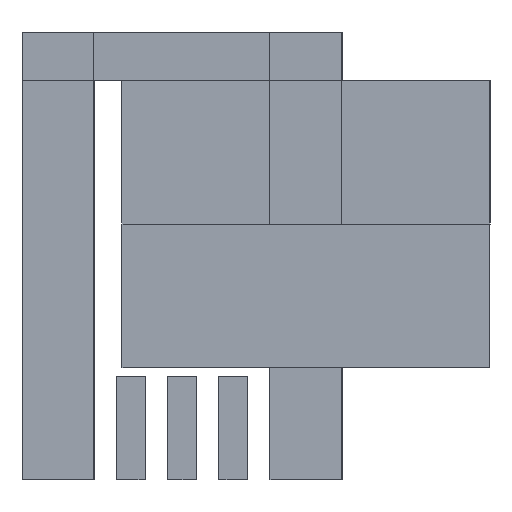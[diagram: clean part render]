
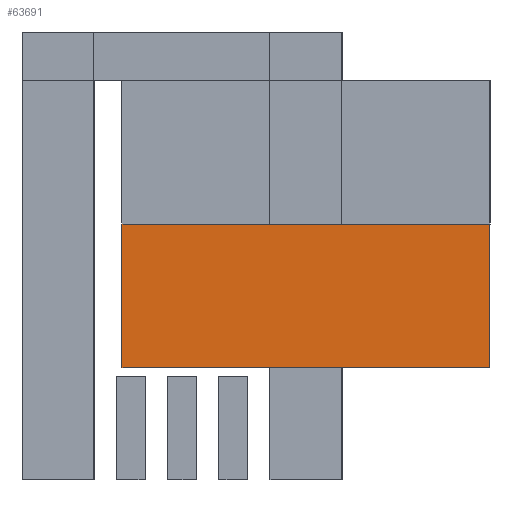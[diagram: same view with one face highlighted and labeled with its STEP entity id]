
A CAD part, left-side view. The second image highlights one B-rep face of the part: STEP entity #63691.
In plain terms, the highlighted planar face has unit normal (-1, 0, 0).
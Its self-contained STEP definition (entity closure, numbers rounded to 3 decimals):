
#63691 = ADVANCED_FACE('',(#63692),#63706,.F.);
#63692 = FACE_BOUND('',#63693,.F.);
#63693 = EDGE_LOOP('',(#63694,#63729,#63757,#63785));
#63694 = ORIENTED_EDGE('',*,*,#63695,.F.);
#63695 = EDGE_CURVE('',#63696,#63698,#63700,.T.);
#63696 = VERTEX_POINT('',#63697);
#63697 = CARTESIAN_POINT('',(-12.,-19.25,57.));
#63698 = VERTEX_POINT('',#63699);
#63699 = CARTESIAN_POINT('',(-12.,-19.25,66.));
#63700 = SURFACE_CURVE('',#63701,(#63705,#63717),.PCURVE_S1.);
#63701 = LINE('',#63702,#63703);
#63702 = CARTESIAN_POINT('',(-12.,-19.25,57.));
#63703 = VECTOR('',#63704,1.);
#63704 = DIRECTION('',(0.,0.,1.));
#63705 = PCURVE('',#63706,#63711);
#63706 = PLANE('',#63707);
#63707 = AXIS2_PLACEMENT_3D('',#63708,#63709,#63710);
#63708 = CARTESIAN_POINT('',(-12.,-19.25,57.));
#63709 = DIRECTION('',(1.,0.,0.));
#63710 = DIRECTION('',(0.,0.,1.));
#63711 = DEFINITIONAL_REPRESENTATION('',(#63712),#63716);
#63712 = LINE('',#63713,#63714);
#63713 = CARTESIAN_POINT('',(0.,0.));
#63714 = VECTOR('',#63715,1.);
#63715 = DIRECTION('',(1.,0.));
#63716 = ( GEOMETRIC_REPRESENTATION_CONTEXT(2) 
PARAMETRIC_REPRESENTATION_CONTEXT() REPRESENTATION_CONTEXT('2D SPACE',''
  ) );
#63717 = PCURVE('',#63718,#63723);
#63718 = PLANE('',#63719);
#63719 = AXIS2_PLACEMENT_3D('',#63720,#63721,#63722);
#63720 = CARTESIAN_POINT('',(-12.,-19.25,57.));
#63721 = DIRECTION('',(0.,1.,0.));
#63722 = DIRECTION('',(0.,0.,1.));
#63723 = DEFINITIONAL_REPRESENTATION('',(#63724),#63728);
#63724 = LINE('',#63725,#63726);
#63725 = CARTESIAN_POINT('',(0.,0.));
#63726 = VECTOR('',#63727,1.);
#63727 = DIRECTION('',(1.,0.));
#63728 = ( GEOMETRIC_REPRESENTATION_CONTEXT(2) 
PARAMETRIC_REPRESENTATION_CONTEXT() REPRESENTATION_CONTEXT('2D SPACE',''
  ) );
#63729 = ORIENTED_EDGE('',*,*,#63730,.T.);
#63730 = EDGE_CURVE('',#63696,#63731,#63733,.T.);
#63731 = VERTEX_POINT('',#63732);
#63732 = CARTESIAN_POINT('',(-12.,3.75,57.));
#63733 = SURFACE_CURVE('',#63734,(#63738,#63745),.PCURVE_S1.);
#63734 = LINE('',#63735,#63736);
#63735 = CARTESIAN_POINT('',(-12.,-19.25,57.));
#63736 = VECTOR('',#63737,1.);
#63737 = DIRECTION('',(0.,1.,0.));
#63738 = PCURVE('',#63706,#63739);
#63739 = DEFINITIONAL_REPRESENTATION('',(#63740),#63744);
#63740 = LINE('',#63741,#63742);
#63741 = CARTESIAN_POINT('',(0.,0.));
#63742 = VECTOR('',#63743,1.);
#63743 = DIRECTION('',(0.,-1.));
#63744 = ( GEOMETRIC_REPRESENTATION_CONTEXT(2) 
PARAMETRIC_REPRESENTATION_CONTEXT() REPRESENTATION_CONTEXT('2D SPACE',''
  ) );
#63745 = PCURVE('',#63746,#63751);
#63746 = PLANE('',#63747);
#63747 = AXIS2_PLACEMENT_3D('',#63748,#63749,#63750);
#63748 = CARTESIAN_POINT('',(-12.,-19.25,57.));
#63749 = DIRECTION('',(0.,0.,1.));
#63750 = DIRECTION('',(1.,0.,0.));
#63751 = DEFINITIONAL_REPRESENTATION('',(#63752),#63756);
#63752 = LINE('',#63753,#63754);
#63753 = CARTESIAN_POINT('',(0.,0.));
#63754 = VECTOR('',#63755,1.);
#63755 = DIRECTION('',(0.,1.));
#63756 = ( GEOMETRIC_REPRESENTATION_CONTEXT(2) 
PARAMETRIC_REPRESENTATION_CONTEXT() REPRESENTATION_CONTEXT('2D SPACE',''
  ) );
#63757 = ORIENTED_EDGE('',*,*,#63758,.T.);
#63758 = EDGE_CURVE('',#63731,#63759,#63761,.T.);
#63759 = VERTEX_POINT('',#63760);
#63760 = CARTESIAN_POINT('',(-12.,3.75,66.));
#63761 = SURFACE_CURVE('',#63762,(#63766,#63773),.PCURVE_S1.);
#63762 = LINE('',#63763,#63764);
#63763 = CARTESIAN_POINT('',(-12.,3.75,57.));
#63764 = VECTOR('',#63765,1.);
#63765 = DIRECTION('',(0.,0.,1.));
#63766 = PCURVE('',#63706,#63767);
#63767 = DEFINITIONAL_REPRESENTATION('',(#63768),#63772);
#63768 = LINE('',#63769,#63770);
#63769 = CARTESIAN_POINT('',(0.,-23.));
#63770 = VECTOR('',#63771,1.);
#63771 = DIRECTION('',(1.,0.));
#63772 = ( GEOMETRIC_REPRESENTATION_CONTEXT(2) 
PARAMETRIC_REPRESENTATION_CONTEXT() REPRESENTATION_CONTEXT('2D SPACE',''
  ) );
#63773 = PCURVE('',#63774,#63779);
#63774 = PLANE('',#63775);
#63775 = AXIS2_PLACEMENT_3D('',#63776,#63777,#63778);
#63776 = CARTESIAN_POINT('',(-12.,3.75,57.));
#63777 = DIRECTION('',(0.,1.,0.));
#63778 = DIRECTION('',(0.,0.,1.));
#63779 = DEFINITIONAL_REPRESENTATION('',(#63780),#63784);
#63780 = LINE('',#63781,#63782);
#63781 = CARTESIAN_POINT('',(0.,0.));
#63782 = VECTOR('',#63783,1.);
#63783 = DIRECTION('',(1.,0.));
#63784 = ( GEOMETRIC_REPRESENTATION_CONTEXT(2) 
PARAMETRIC_REPRESENTATION_CONTEXT() REPRESENTATION_CONTEXT('2D SPACE',''
  ) );
#63785 = ORIENTED_EDGE('',*,*,#63786,.F.);
#63786 = EDGE_CURVE('',#63698,#63759,#63787,.T.);
#63787 = SURFACE_CURVE('',#63788,(#63792,#63799),.PCURVE_S1.);
#63788 = LINE('',#63789,#63790);
#63789 = CARTESIAN_POINT('',(-12.,-19.25,66.));
#63790 = VECTOR('',#63791,1.);
#63791 = DIRECTION('',(0.,1.,0.));
#63792 = PCURVE('',#63706,#63793);
#63793 = DEFINITIONAL_REPRESENTATION('',(#63794),#63798);
#63794 = LINE('',#63795,#63796);
#63795 = CARTESIAN_POINT('',(9.,0.));
#63796 = VECTOR('',#63797,1.);
#63797 = DIRECTION('',(0.,-1.));
#63798 = ( GEOMETRIC_REPRESENTATION_CONTEXT(2) 
PARAMETRIC_REPRESENTATION_CONTEXT() REPRESENTATION_CONTEXT('2D SPACE',''
  ) );
#63799 = PCURVE('',#63800,#63805);
#63800 = PLANE('',#63801);
#63801 = AXIS2_PLACEMENT_3D('',#63802,#63803,#63804);
#63802 = CARTESIAN_POINT('',(-12.,-19.25,66.));
#63803 = DIRECTION('',(0.,0.,1.));
#63804 = DIRECTION('',(1.,0.,0.));
#63805 = DEFINITIONAL_REPRESENTATION('',(#63806),#63810);
#63806 = LINE('',#63807,#63808);
#63807 = CARTESIAN_POINT('',(0.,0.));
#63808 = VECTOR('',#63809,1.);
#63809 = DIRECTION('',(0.,1.));
#63810 = ( GEOMETRIC_REPRESENTATION_CONTEXT(2) 
PARAMETRIC_REPRESENTATION_CONTEXT() REPRESENTATION_CONTEXT('2D SPACE',''
  ) );
